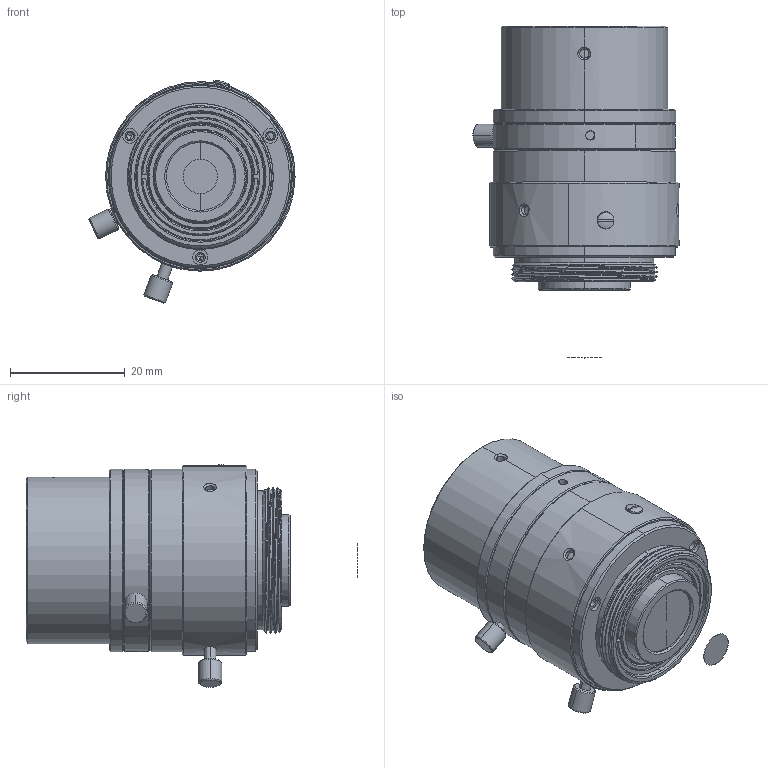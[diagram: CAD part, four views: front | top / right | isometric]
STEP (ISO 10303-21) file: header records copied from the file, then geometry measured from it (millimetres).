
FILE_DESCRIPTION((''),'2;1');
FILE_NAME('PHX-12-ZP_ASM','2020-06-05T',('sirtec'),(''),'CREO PARAMETRIC BY PTC INC, 2014190','CREO PARAMETRIC BY PTC INC, 2014190','');
FILE_SCHEMA(('CONFIG_CONTROL_DESIGN'));
Products named in the file (29): PHX-12-201; PHX-16-302-00_ASM; PHX-12-101; PHX-12-G1; PHX-12-103; PHX-12-105; PHX-12-102; PHX-12-01_ASM; PHX-16-301; PHX-16-308; PHX-16-407; PHX-12-401; PHX-12-109; PHX-12-G8; PHX-12-106; PHX-12-107; PHX-12-108; PHX-16-406; PHX-16-405; PHX-12-02_ASM; PHX-12-202; PHX-12-403; PHX-16-404; PHX-12-403_ASM; PHX-16-203; PHX-16-402; PHX-12-XM; PHX-16-501; PHX-12-ZP_ASM
Assembly tree (33 placements, depth 3):
  PHX-12-ZP_ASM
    PHX-12-201
    PHX-16-302-00_ASM
    PHX-12-01_ASM
      PHX-12-101
      PHX-12-G1
      PHX-12-103
      PHX-12-105
      PHX-12-102
    PHX-16-301
    PHX-16-308
    PHX-16-407
    PHX-12-401
    PHX-12-02_ASM
      PHX-12-109
      PHX-12-G8
      PHX-12-106
      PHX-12-107
      PHX-12-108
      PHX-16-406  x3
      PHX-16-405  x3
    PHX-12-202
    PHX-12-403_ASM
      PHX-12-403
      PHX-16-404
    PHX-16-203
    PHX-16-402
    PHX-12-XM
    PHX-16-501  x2
Bounding box: 35.89 x 57.78 x 38.75 mm (x, y, z)
Volume: 18855.9 mm3; surface area: 31305 mm2
Topology: 29 solids, 29 shells, 1070 faces, 2567 edges, 1582 vertices
Faces by surface type: cylinder 410, cone 309, bspline 178, plane 163, sphere 10
Entity records: 58050 total; most frequent: CARTESIAN_POINT 35186, ORIENTED_EDGE 4798, DIRECTION 4378, EDGE_CURVE 2399, AXIS2_PLACEMENT_3D 1767, VERTEX_POINT 1494, EDGE_LOOP 1143, FACE_OUTER_BOUND 995
